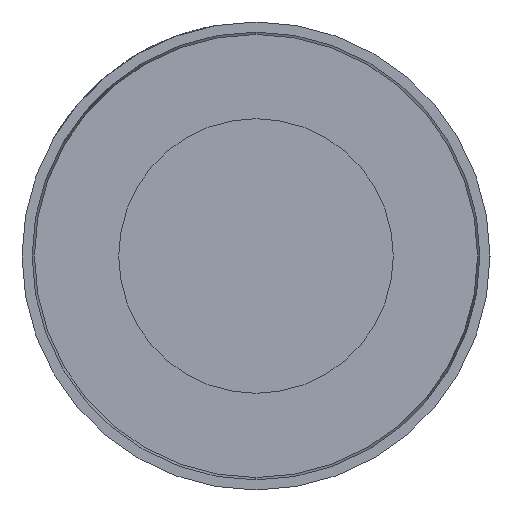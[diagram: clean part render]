
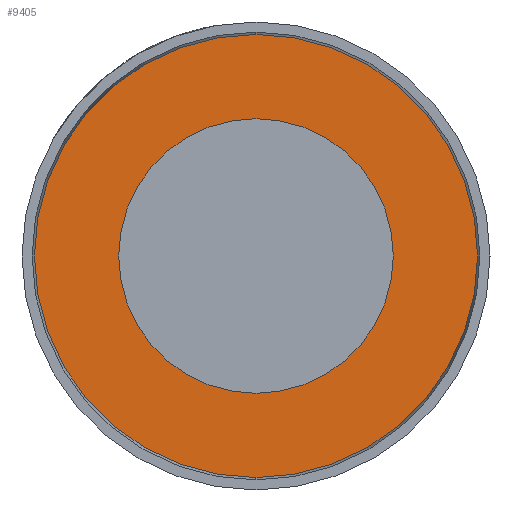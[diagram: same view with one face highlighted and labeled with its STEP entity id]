
A CAD part, left-side view. The second image highlights one B-rep face of the part: STEP entity #9405.
In plain terms, the highlighted planar face has unit normal (-1, 0, 0).
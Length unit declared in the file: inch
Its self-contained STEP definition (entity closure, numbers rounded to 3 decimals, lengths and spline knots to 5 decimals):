
#13 = AXIS2_PLACEMENT_3D ( 'NONE', #2401, #13999, #20228 ) ;
#173 = ORIENTED_EDGE ( 'NONE', *, *, #12261, .F. ) ;
#549 = ORIENTED_EDGE ( 'NONE', *, *, #16247, .T. ) ;
#757 = EDGE_LOOP ( 'NONE', ( #16205, #173 ) ) ;
#1393 = DIRECTION ( 'NONE',  ( -1., 0., 0. ) ) ;
#1525 = EDGE_CURVE ( 'NONE', #9867, #20689, #11479, .T. ) ;
#2171 = DIRECTION ( 'NONE',  ( 0., 0., 1. ) ) ;
#2401 = CARTESIAN_POINT ( 'NONE',  ( 0., 0., 0. ) ) ;
#3805 = PLANE ( 'NONE',  #6803 ) ;
#4090 = EDGE_CURVE ( 'NONE', #10524, #11946, #20700, .T. ) ;
#4231 = CARTESIAN_POINT ( 'NONE',  ( 0., 0., 0. ) ) ;
#5063 = AXIS2_PLACEMENT_3D ( 'NONE', #18910, #13056, #13171 ) ;
#6803 = AXIS2_PLACEMENT_3D ( 'NONE', #4231, #10671, #20052 ) ;
#7309 = AXIS2_PLACEMENT_3D ( 'NONE', #11212, #1393, #20496 ) ;
#8309 = CIRCLE ( 'NONE', #7309, 0.11 ) ;
#8314 = CARTESIAN_POINT ( 'NONE',  ( 0., 0., -0.1775 ) ) ;
#8442 = CIRCLE ( 'NONE', #13, 0.1775 ) ;
#8861 = FACE_OUTER_BOUND ( 'NONE', #19999, .T. ) ;
#9324 = CARTESIAN_POINT ( 'NONE',  ( 0., 0., -0.11 ) ) ;
#9405 = ADVANCED_FACE ( 'NONE', ( #15200, #8861 ), #3805, .F. ) ;
#9867 = VERTEX_POINT ( 'NONE', #14011 ) ;
#10524 = VERTEX_POINT ( 'NONE', #8314 ) ;
#10528 = CARTESIAN_POINT ( 'NONE',  ( 0., 0., 0. ) ) ;
#10671 = DIRECTION ( 'NONE',  ( 1., 0., 0. ) ) ;
#11212 = CARTESIAN_POINT ( 'NONE',  ( 0., 0., 0. ) ) ;
#11479 = CIRCLE ( 'NONE', #5063, 0.11 ) ;
#11593 = AXIS2_PLACEMENT_3D ( 'NONE', #10528, #16943, #2171 ) ;
#11946 = VERTEX_POINT ( 'NONE', #12384 ) ;
#12261 = EDGE_CURVE ( 'NONE', #20689, #9867, #8309, .T. ) ;
#12384 = CARTESIAN_POINT ( 'NONE',  ( 0., 0., 0.1775 ) ) ;
#13056 = DIRECTION ( 'NONE',  ( -1., 0., 0. ) ) ;
#13171 = DIRECTION ( 'NONE',  ( 0., 0., 1. ) ) ;
#13999 = DIRECTION ( 'NONE',  ( -1., 0., 0. ) ) ;
#14011 = CARTESIAN_POINT ( 'NONE',  ( 0., 0., 0.11 ) ) ;
#15200 = FACE_BOUND ( 'NONE', #757, .T. ) ;
#16205 = ORIENTED_EDGE ( 'NONE', *, *, #1525, .F. ) ;
#16247 = EDGE_CURVE ( 'NONE', #11946, #10524, #8442, .T. ) ;
#16943 = DIRECTION ( 'NONE',  ( -1., 0., 0. ) ) ;
#18910 = CARTESIAN_POINT ( 'NONE',  ( 0., 0., 0. ) ) ;
#19981 = ORIENTED_EDGE ( 'NONE', *, *, #4090, .T. ) ;
#19999 = EDGE_LOOP ( 'NONE', ( #549, #19981 ) ) ;
#20052 = DIRECTION ( 'NONE',  ( 0., 0., -1. ) ) ;
#20228 = DIRECTION ( 'NONE',  ( 0., 0., 1. ) ) ;
#20496 = DIRECTION ( 'NONE',  ( 0., 0., 1. ) ) ;
#20689 = VERTEX_POINT ( 'NONE', #9324 ) ;
#20700 = CIRCLE ( 'NONE', #11593, 0.1775 ) ;
